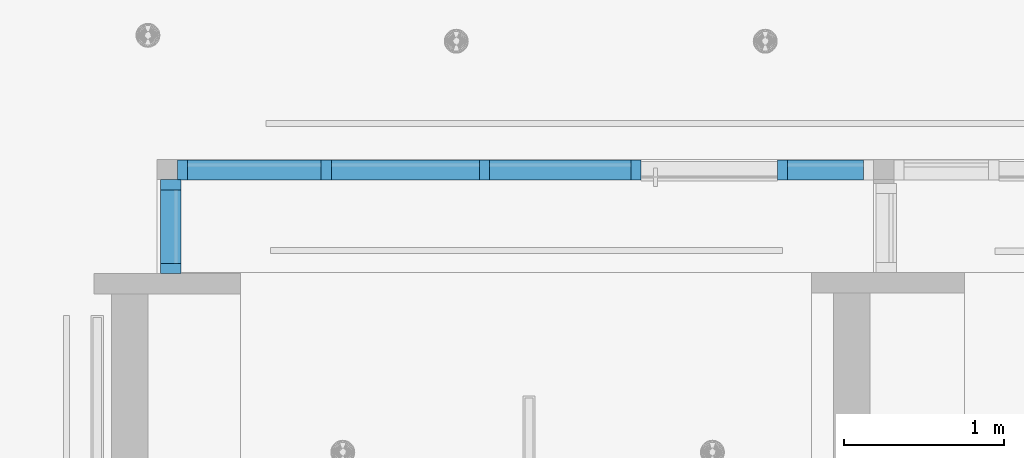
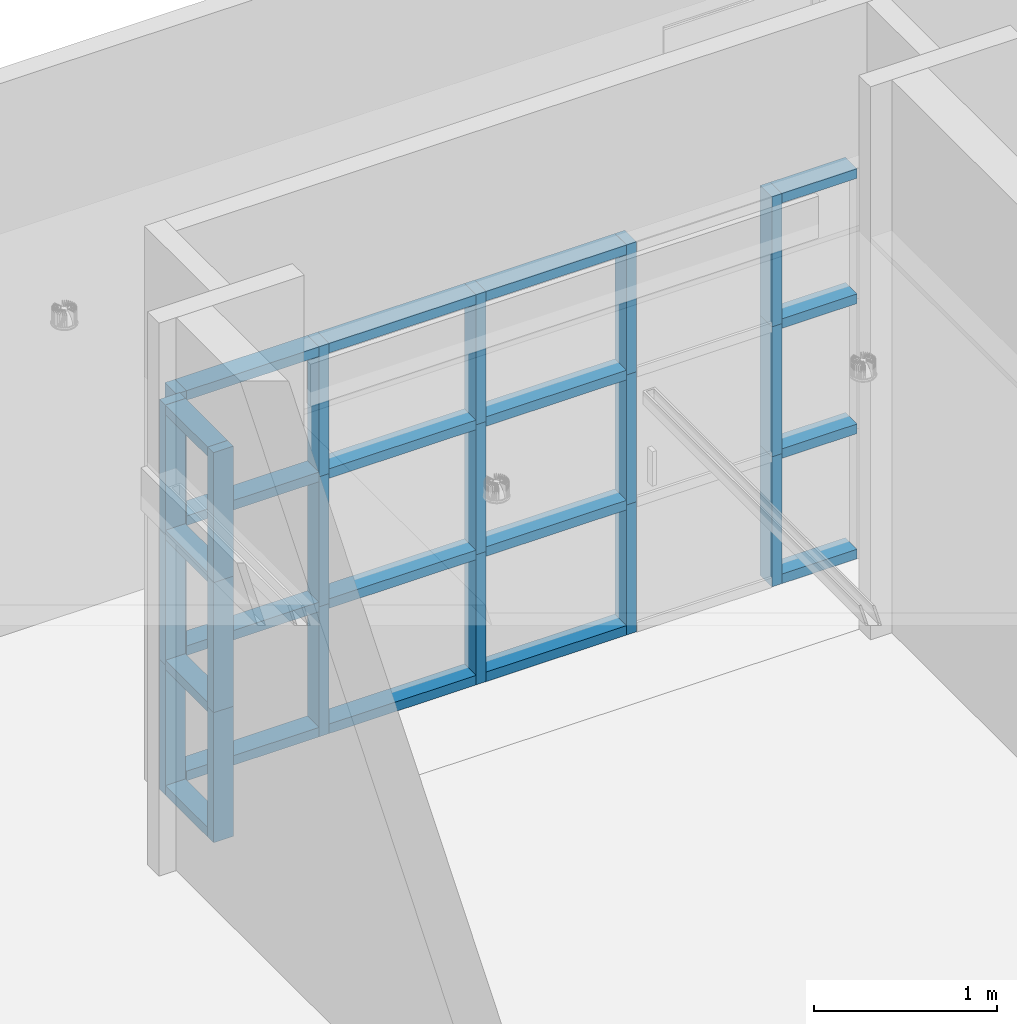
# One storey, part 7 of 108: 40 members, 2 elements without a shape of their own.
"""IFC4 building model written with IfcOpenShell, lengths in feet."""

from ifc_helpers import new_model, entity, si_unit, converted_unit, derived_unit, direction, frame, origin, origin_2d_with_axis, place, context, subcontext, project, spatial, rectangle, extrude, source, transform, mapped, material, material_profile, profile_set, profile_usage, type_object, type_shapes, element, aggregate, save


model = new_model("IFC4")

# Units and contexts
model_context = context("Model", 3, precision=0.0001, world=origin(), true_north=direction((6.12303176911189e-17, 1.0)))
body_context = subcontext(model_context, "Body", "Model", "MODEL_VIEW")
ifc_project = project(units=[converted_unit("LENGTHUNIT", "FOOT", entity("IfcRatioMeasure", 0.3048), si_unit("LENGTHUNIT", "METRE"), dimensions=[1, 0, 0, 0, 0, 0, 0]), converted_unit("AREAUNIT", "SQUARE FOOT", entity("IfcRatioMeasure", 0.09290304), si_unit("AREAUNIT", "SQUARE_METRE"), dimensions=[2, 0, 0, 0, 0, 0, 0]), converted_unit("VOLUMEUNIT", "CUBIC FOOT", entity("IfcRatioMeasure", 0.028316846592), si_unit("VOLUMEUNIT", "CUBIC_METRE"), dimensions=[3, 0, 0, 0, 0, 0, 0]), converted_unit("PLANEANGLEUNIT", "DEGREE", entity("IfcRatioMeasure", 0.0174532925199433), si_unit("PLANEANGLEUNIT", "RADIAN"), dimensions=[0, 0, 0, 0, 0, 0, 0]), si_unit("MASSUNIT", "GRAM", prefix="KILO"), derived_unit("MASSDENSITYUNIT", [(si_unit("MASSUNIT", "GRAM", prefix="KILO"), 1), (si_unit("LENGTHUNIT", "METRE"), -3)]), si_unit("TIMEUNIT", "SECOND"), si_unit("FREQUENCYUNIT", "HERTZ"), si_unit("THERMODYNAMICTEMPERATUREUNIT", "DEGREE_CELSIUS"), derived_unit("THERMALTRANSMITTANCEUNIT", [(si_unit("MASSUNIT", "GRAM", prefix="KILO"), 1), (si_unit("THERMODYNAMICTEMPERATUREUNIT", "KELVIN"), -1), (si_unit("TIMEUNIT", "SECOND"), -3)]), derived_unit("VOLUMETRICFLOWRATEUNIT", [(si_unit("LENGTHUNIT", "METRE"), 3), (si_unit("TIMEUNIT", "SECOND"), -1)]), si_unit("ELECTRICCURRENTUNIT", "AMPERE"), si_unit("ELECTRICVOLTAGEUNIT", "VOLT"), si_unit("POWERUNIT", "WATT"), si_unit("FORCEUNIT", "NEWTON"), si_unit("ILLUMINANCEUNIT", "LUX"), si_unit("LUMINOUSFLUXUNIT", "LUMEN"), si_unit("LUMINOUSINTENSITYUNIT", "CANDELA"), derived_unit("USERDEFINED", [(si_unit("MASSUNIT", "GRAM", prefix="KILO"), -1), (si_unit("LENGTHUNIT", "METRE"), -2), (si_unit("TIMEUNIT", "SECOND"), 3), (si_unit("LUMINOUSFLUXUNIT", "LUMEN"), 1)]), derived_unit("LINEARVELOCITYUNIT", [(si_unit("LENGTHUNIT", "METRE"), 1), (si_unit("TIMEUNIT", "SECOND"), -1)]), si_unit("PRESSUREUNIT", "PASCAL"), derived_unit("USERDEFINED", [(si_unit("LENGTHUNIT", "METRE"), -2), (si_unit("MASSUNIT", "GRAM", prefix="KILO"), 1), (si_unit("TIMEUNIT", "SECOND"), -2)])], contexts=[model_context])

# Site, building, storey
site_placement = place(None, origin())
site = spatial("IfcSite", under=ifc_project, at=site_placement, Name="Default", CompositionType="ELEMENT")
building_placement = place(site_placement, origin())
building = spatial("IfcBuilding", under=site, at=building_placement, CompositionType="ELEMENT")
storey_placement = place(building_placement, frame((0.0, 0.0, 168.0)))
storey = spatial("IfcBuildingStorey", under=building, at=storey_placement, Name="Level 15", CompositionType="ELEMENT", Elevation=168.0)

# Curtain wall, members
curtain_wall_type = type_object("IfcCurtainWallType", Name="Curtain Wall:Storefront 02", PredefinedType="NOTDEFINED")
curtain_wall_1_placement = place(storey_placement, frame((0.0, 0.0, -168.0)))
curtain_wall_1 = element("IfcCurtainWall", 1, at=curtain_wall_1_placement, inside=storey, type_object=curtain_wall_type, Name="Curtain Wall:Storefront 02", ObjectType="Curtain Wall:Storefront 02", PredefinedType="NOTDEFINED")
ifc_material = material(Name="Aluminum", Category="Metal")
ifc_material_profile = material_profile(ifc_material, rectangle(XDim=0.416666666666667, YDim=0.208333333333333, at=origin_2d_with_axis()), Name="2.5\" x 5\" rectangular")
ifc_profile_set = profile_set([ifc_material_profile], Name="2.5\" x 5\" rectangular")
ifc_profile_usage_1 = profile_usage(ifc_profile_set)
member_type_1 = type_object("IfcMemberType", Name="2.5\" x 5\" rectangular", PredefinedType="MEMBER", material=ifc_profile_set)
shared_shape_1 = source(origin(), body_context, "Body", "SweptSolid", [
    extrude(rectangle(XDim=0.416666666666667, YDim=0.208333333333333, at=origin_2d_with_axis()), frame((-0.104166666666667, 0.0, -2.84094160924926), z_axis=(0.0, 0.0, 1.0), x_axis=(0.0, -1.0, 0.0)), (0.0, 0.0, 1.0), 2.84094160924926),
])
type_shapes(member_type_1, [shared_shape_1])
member_1_placement = place(storey_placement, frame((-1.4531314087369, 9.76514449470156, 0.0), z_axis=(0.0, 0.0, -1.0), x_axis=(0.0, 1.0, 0.0)))
member_1 = element("IfcMember", 2, at=member_1_placement, type_object=member_type_1, material=ifc_profile_usage_1, Name="Rectangular Mullion:2.5\" x 5\" rectangular", ObjectType="Rectangular Mullion:2.5\" x 5\" rectangular", PredefinedType="MULLION", context=body_context, shape_type="MappedRepresentation", body=[
    mapped(shared_shape_1, transform((0.0, 0.0, 0.0), scale=1.0)),
])
ifc_profile_usage_2 = profile_usage(ifc_profile_set)
member_type_2 = type_object("IfcMemberType", Name="2.5\" x 5\" rectangular", PredefinedType="MEMBER", material=ifc_profile_set)
shared_shape_2 = source(origin(), body_context, "Body", "SweptSolid", [
    extrude(rectangle(XDim=0.416666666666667, YDim=0.208333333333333, at=origin_2d_with_axis()), frame((-0.104166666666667, 0.0, -2.84094160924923), z_axis=(0.0, 0.0, 1.0), x_axis=(0.0, -1.0, 0.0)), (0.0, 0.0, 1.0), 2.84094160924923),
])
type_shapes(member_type_2, [shared_shape_2])
member_2_placement = place(storey_placement, frame((-1.45313140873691, 7.83564959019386, 8.52282482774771), z_axis=(0.0, 0.0, 1.0), x_axis=(0.0, -1.0, 0.0)))
member_2 = element("IfcMember", 3, at=member_2_placement, type_object=member_type_2, material=ifc_profile_usage_2, Name="Rectangular Mullion:2.5\" x 5\" rectangular", ObjectType="Rectangular Mullion:2.5\" x 5\" rectangular", PredefinedType="MULLION", context=body_context, shape_type="MappedRepresentation", body=[
    mapped(shared_shape_2, transform((0.0, 0.0, 0.0), scale=1.0)),
])

# Curtain wall, member
curtain_wall_2_placement = place(storey_placement, frame((0.0, 0.0, -168.0)))
curtain_wall_2 = element("IfcCurtainWall", 4, at=curtain_wall_2_placement, inside=storey, type_object=curtain_wall_type, Name="Curtain Wall:Storefront 02", ObjectType="Curtain Wall:Storefront 02", PredefinedType="NOTDEFINED")
ifc_profile_usage_3 = profile_usage(ifc_profile_set)
member_type_3 = type_object("IfcMemberType", Name="2.5\" x 5\" rectangular", PredefinedType="MEMBER", material=ifc_profile_set)
shared_shape_3 = source(origin(), body_context, "Body", "SweptSolid", [
    extrude(rectangle(XDim=0.416666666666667, YDim=0.208333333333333, at=origin_2d_with_axis()), frame((-0.104166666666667, 0.0, -2.84094160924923), z_axis=(0.0, 0.0, 1.0), x_axis=(0.0, -1.0, 0.0)), (0.0, 0.0, 1.0), 2.84094160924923),
])
type_shapes(member_type_3, [shared_shape_3])
member_3_placement = place(storey_placement, frame((-1.31924407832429, 9.96064959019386, 5.68188321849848), z_axis=(0.0, 0.0, -1.0), x_axis=(-1.0, 0.0, 0.0)))
member_3 = element("IfcMember", 5, at=member_3_placement, type_object=member_type_3, material=ifc_profile_usage_3, Name="Rectangular Mullion:2.5\" x 5\" rectangular", ObjectType="Rectangular Mullion:2.5\" x 5\" rectangular", PredefinedType="MULLION", context=body_context, shape_type="MappedRepresentation", body=[
    mapped(shared_shape_3, transform((0.0, 0.0, 0.0), scale=1.0)),
])

# Member
ifc_profile_usage_4 = profile_usage(ifc_profile_set)
member_4_placement = place(storey_placement, frame((-1.4531314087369, 9.76514449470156, 5.68188321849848), z_axis=(0.0, 0.0, -1.0), x_axis=(0.0, 1.0, 0.0)))
member_4 = element("IfcMember", 6, at=member_4_placement, type_object=member_type_3, material=ifc_profile_usage_4, Name="Rectangular Mullion:2.5\" x 5\" rectangular", ObjectType="Rectangular Mullion:2.5\" x 5\" rectangular", PredefinedType="MULLION", context=body_context, shape_type="MappedRepresentation", body=[
    mapped(shared_shape_3, transform((0.0, 0.0, 0.0), scale=1.0)),
])

ifc_profile_usage_5 = profile_usage(ifc_profile_set)
member_type_4 = type_object("IfcMemberType", Name="2.5\" x 5\" rectangular", PredefinedType="MEMBER", material=ifc_profile_set)
shared_shape_4 = source(origin(), body_context, "Body", "SweptSolid", [
    extrude(rectangle(XDim=0.416666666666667, YDim=0.208333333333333, at=origin_2d_with_axis()), frame((-0.104166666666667, 0.0, -2.84094160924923), z_axis=(0.0, 0.0, 1.0), x_axis=(0.0, -1.0, 0.0)), (0.0, 0.0, 1.0), 2.84094160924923),
])
type_shapes(member_type_4, [shared_shape_4])
member_5_placement = place(storey_placement, frame((-1.45313140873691, 7.83564959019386, 5.68188321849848), z_axis=(0.0, 0.0, 1.0), x_axis=(0.0, -1.0, 0.0)))
member_5 = element("IfcMember", 7, at=member_5_placement, type_object=member_type_4, material=ifc_profile_usage_5, Name="Rectangular Mullion:2.5\" x 5\" rectangular", ObjectType="Rectangular Mullion:2.5\" x 5\" rectangular", PredefinedType="MULLION", context=body_context, shape_type="MappedRepresentation", body=[
    mapped(shared_shape_4, transform((0.0, 0.0, 0.0), scale=1.0)),
])

ifc_profile_usage_6 = profile_usage(ifc_profile_set)
member_type_5 = type_object("IfcMemberType", Name="2.5\" x 5\" rectangular", PredefinedType="MEMBER", material=ifc_profile_set)
shared_shape_5 = source(origin(), body_context, "Body", "SweptSolid", [
    extrude(rectangle(XDim=0.416666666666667, YDim=0.208333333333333, at=origin_2d_with_axis()), frame((-0.104166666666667, 0.0, -2.84094160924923), z_axis=(0.0, 0.0, 1.0), x_axis=(0.0, -1.0, 0.0)), (0.0, 0.0, 1.0), 2.84094160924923),
])
type_shapes(member_type_5, [shared_shape_5])
member_6_placement = place(storey_placement, frame((-1.31924407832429, 9.96064959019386, 2.84094160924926), z_axis=(0.0, 0.0, -1.0), x_axis=(-1.0, 0.0, 0.0)))
member_6 = element("IfcMember", 8, at=member_6_placement, type_object=member_type_5, material=ifc_profile_usage_6, Name="Rectangular Mullion:2.5\" x 5\" rectangular", ObjectType="Rectangular Mullion:2.5\" x 5\" rectangular", PredefinedType="MULLION", context=body_context, shape_type="MappedRepresentation", body=[
    mapped(shared_shape_5, transform((0.0, 0.0, 0.0), scale=1.0)),
])

ifc_profile_usage_7 = profile_usage(ifc_profile_set)
member_7_placement = place(storey_placement, frame((-1.4531314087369, 9.76514449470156, 2.84094160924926), z_axis=(0.0, 0.0, -1.0), x_axis=(0.0, 1.0, 0.0)))
member_7 = element("IfcMember", 9, at=member_7_placement, type_object=member_type_5, material=ifc_profile_usage_7, Name="Rectangular Mullion:2.5\" x 5\" rectangular", ObjectType="Rectangular Mullion:2.5\" x 5\" rectangular", PredefinedType="MULLION", context=body_context, shape_type="MappedRepresentation", body=[
    mapped(shared_shape_5, transform((0.0, 0.0, 0.0), scale=1.0)),
])

ifc_profile_usage_8 = profile_usage(ifc_profile_set)
member_type_6 = type_object("IfcMemberType", Name="2.5\" x 5\" rectangular", PredefinedType="MEMBER", material=ifc_profile_set)
shared_shape_6 = source(origin(), body_context, "Body", "SweptSolid", [
    extrude(rectangle(XDim=0.416666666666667, YDim=0.208333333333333, at=origin_2d_with_axis()), frame((-0.104166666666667, 0.0, -2.84094160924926), z_axis=(0.0, 0.0, 1.0), x_axis=(0.0, -1.0, 0.0)), (0.0, 0.0, 1.0), 2.84094160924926),
])
type_shapes(member_type_6, [shared_shape_6])
member_8_placement = place(storey_placement, frame((-1.45313140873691, 7.83564959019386, 2.84094160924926), z_axis=(0.0, 0.0, 1.0), x_axis=(0.0, -1.0, 0.0)))
member_8 = element("IfcMember", 10, at=member_8_placement, type_object=member_type_6, material=ifc_profile_usage_8, Name="Rectangular Mullion:2.5\" x 5\" rectangular", ObjectType="Rectangular Mullion:2.5\" x 5\" rectangular", PredefinedType="MULLION", context=body_context, shape_type="MappedRepresentation", body=[
    mapped(shared_shape_6, transform((0.0, 0.0, 0.0), scale=1.0)),
])

ifc_profile_usage_9 = profile_usage(ifc_profile_set)
member_type_7 = type_object("IfcMemberType", Name="2.5\" x 5\" rectangular", PredefinedType="MEMBER", material=ifc_profile_set)
shared_shape_7 = source(origin(), body_context, "Body", "SweptSolid", [
    extrude(rectangle(XDim=0.416666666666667, YDim=0.208333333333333, at=origin_2d_with_axis()), frame((0.0, 0.0, -2.84094160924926), z_axis=(0.0, 0.0, 1.0), x_axis=(0.0, -1.0, 0.0)), (0.0, 0.0, 1.0), 2.84094160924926),
])
type_shapes(member_type_7, [shared_shape_7])
member_9_placement = place(storey_placement, frame((8.08870395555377, 9.96064959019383, 0.0), z_axis=(0.0, 0.0, -1.0), x_axis=(-1.0, 0.0, 0.0)))
member_9 = element("IfcMember", 11, at=member_9_placement, type_object=member_type_7, material=ifc_profile_usage_9, Name="Rectangular Mullion:2.5\" x 5\" rectangular", ObjectType="Rectangular Mullion:2.5\" x 5\" rectangular", PredefinedType="MULLION", context=body_context, shape_type="MappedRepresentation", body=[
    mapped(shared_shape_7, transform((0.0, 0.0, 0.0), scale=1.0)),
])

ifc_profile_usage_10 = profile_usage(ifc_profile_set)
member_10_placement = place(storey_placement, frame((11.0887039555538, 9.96064959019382, 0.0), z_axis=(0.0, 0.0, -1.0), x_axis=(-1.0, 0.0, 0.0)))
member_10 = element("IfcMember", 12, at=member_10_placement, type_object=member_type_7, material=ifc_profile_usage_10, Name="Rectangular Mullion:2.5\" x 5\" rectangular", ObjectType="Rectangular Mullion:2.5\" x 5\" rectangular", PredefinedType="MULLION", context=body_context, shape_type="MappedRepresentation", body=[
    mapped(shared_shape_7, transform((0.0, 0.0, 0.0), scale=1.0)),
])

ifc_profile_usage_11 = profile_usage(ifc_profile_set)
member_11_placement = place(storey_placement, frame((4.97753661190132, 9.96064959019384, 0.0), z_axis=(0.0, 0.0, -1.0), x_axis=(-1.0, 0.0, 0.0)))
member_11 = element("IfcMember", 13, at=member_11_placement, type_object=member_type_7, material=ifc_profile_usage_11, Name="Rectangular Mullion:2.5\" x 5\" rectangular", ObjectType="Rectangular Mullion:2.5\" x 5\" rectangular", PredefinedType="MULLION", context=body_context, shape_type="MappedRepresentation", body=[
    mapped(shared_shape_7, transform((0.0, 0.0, 0.0), scale=1.0)),
])

ifc_profile_usage_12 = profile_usage(ifc_profile_set)
member_12_placement = place(storey_placement, frame((1.7343685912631, 9.96064959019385, 0.0), z_axis=(0.0, 0.0, -1.0), x_axis=(-1.0, 0.0, 0.0)))
member_12 = element("IfcMember", 14, at=member_12_placement, type_object=member_type_7, material=ifc_profile_usage_12, Name="Rectangular Mullion:2.5\" x 5\" rectangular", ObjectType="Rectangular Mullion:2.5\" x 5\" rectangular", PredefinedType="MULLION", context=body_context, shape_type="MappedRepresentation", body=[
    mapped(shared_shape_7, transform((0.0, 0.0, 0.0), scale=1.0)),
])

ifc_profile_usage_13 = profile_usage(ifc_profile_set)
member_type_8 = type_object("IfcMemberType", Name="2.5\" x 5\" rectangular", PredefinedType="MEMBER", material=ifc_profile_set)
shared_shape_8 = source(origin(), body_context, "Body", "SweptSolid", [
    extrude(rectangle(XDim=0.416666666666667, YDim=0.208333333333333, at=origin_2d_with_axis()), frame((0.0, 0.0, -2.84094160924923), z_axis=(0.0, 0.0, 1.0), x_axis=(0.0, -1.0, 0.0)), (0.0, 0.0, 1.0), 2.84094160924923),
])
type_shapes(member_type_8, [shared_shape_8])
member_13_placement = place(storey_placement, frame((11.0887039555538, 9.96064959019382, 5.68188321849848), z_axis=(0.0, 0.0, -1.0), x_axis=(-1.0, 0.0, 0.0)))
member_13 = element("IfcMember", 15, at=member_13_placement, type_object=member_type_8, material=ifc_profile_usage_13, Name="Rectangular Mullion:2.5\" x 5\" rectangular", ObjectType="Rectangular Mullion:2.5\" x 5\" rectangular", PredefinedType="MULLION", context=body_context, shape_type="MappedRepresentation", body=[
    mapped(shared_shape_8, transform((0.0, 0.0, 0.0), scale=1.0)),
])

ifc_profile_usage_14 = profile_usage(ifc_profile_set)
member_14_placement = place(storey_placement, frame((8.08870395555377, 9.96064959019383, 5.68188321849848), z_axis=(0.0, 0.0, -1.0), x_axis=(-1.0, 0.0, 0.0)))
member_14 = element("IfcMember", 16, at=member_14_placement, type_object=member_type_8, material=ifc_profile_usage_14, Name="Rectangular Mullion:2.5\" x 5\" rectangular", ObjectType="Rectangular Mullion:2.5\" x 5\" rectangular", PredefinedType="MULLION", context=body_context, shape_type="MappedRepresentation", body=[
    mapped(shared_shape_8, transform((0.0, 0.0, 0.0), scale=1.0)),
])

ifc_profile_usage_15 = profile_usage(ifc_profile_set)
member_15_placement = place(storey_placement, frame((4.97753661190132, 9.96064959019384, 5.68188321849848), z_axis=(0.0, 0.0, -1.0), x_axis=(-1.0, 0.0, 0.0)))
member_15 = element("IfcMember", 17, at=member_15_placement, type_object=member_type_8, material=ifc_profile_usage_15, Name="Rectangular Mullion:2.5\" x 5\" rectangular", ObjectType="Rectangular Mullion:2.5\" x 5\" rectangular", PredefinedType="MULLION", context=body_context, shape_type="MappedRepresentation", body=[
    mapped(shared_shape_8, transform((0.0, 0.0, 0.0), scale=1.0)),
])

ifc_profile_usage_16 = profile_usage(ifc_profile_set)
member_16_placement = place(storey_placement, frame((1.7343685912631, 9.96064959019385, 5.68188321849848), z_axis=(0.0, 0.0, -1.0), x_axis=(-1.0, 0.0, 0.0)))
member_16 = element("IfcMember", 18, at=member_16_placement, type_object=member_type_8, material=ifc_profile_usage_16, Name="Rectangular Mullion:2.5\" x 5\" rectangular", ObjectType="Rectangular Mullion:2.5\" x 5\" rectangular", PredefinedType="MULLION", context=body_context, shape_type="MappedRepresentation", body=[
    mapped(shared_shape_8, transform((0.0, 0.0, 0.0), scale=1.0)),
])

ifc_profile_usage_17 = profile_usage(ifc_profile_set)
member_type_9 = type_object("IfcMemberType", Name="2.5\" x 5\" rectangular", PredefinedType="MEMBER", material=ifc_profile_set)
shared_shape_9 = source(origin(), body_context, "Body", "SweptSolid", [
    extrude(rectangle(XDim=0.416666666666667, YDim=0.208333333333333, at=origin_2d_with_axis()), frame((0.0, 0.0, -2.84094160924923), z_axis=(0.0, 0.0, 1.0), x_axis=(0.0, -1.0, 0.0)), (0.0, 0.0, 1.0), 2.84094160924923),
])
type_shapes(member_type_9, [shared_shape_9])
member_17_placement = place(storey_placement, frame((11.0887039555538, 9.96064959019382, 2.84094160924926), z_axis=(0.0, 0.0, -1.0), x_axis=(-1.0, 0.0, 0.0)))
member_17 = element("IfcMember", 19, at=member_17_placement, type_object=member_type_9, material=ifc_profile_usage_17, Name="Rectangular Mullion:2.5\" x 5\" rectangular", ObjectType="Rectangular Mullion:2.5\" x 5\" rectangular", PredefinedType="MULLION", context=body_context, shape_type="MappedRepresentation", body=[
    mapped(shared_shape_9, transform((0.0, 0.0, 0.0), scale=1.0)),
])

ifc_profile_usage_18 = profile_usage(ifc_profile_set)
member_18_placement = place(storey_placement, frame((8.08870395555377, 9.96064959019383, 2.84094160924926), z_axis=(0.0, 0.0, -1.0), x_axis=(-1.0, 0.0, 0.0)))
member_18 = element("IfcMember", 20, at=member_18_placement, type_object=member_type_9, material=ifc_profile_usage_18, Name="Rectangular Mullion:2.5\" x 5\" rectangular", ObjectType="Rectangular Mullion:2.5\" x 5\" rectangular", PredefinedType="MULLION", context=body_context, shape_type="MappedRepresentation", body=[
    mapped(shared_shape_9, transform((0.0, 0.0, 0.0), scale=1.0)),
])

ifc_profile_usage_19 = profile_usage(ifc_profile_set)
member_19_placement = place(storey_placement, frame((4.97753661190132, 9.96064959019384, 2.84094160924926), z_axis=(0.0, 0.0, -1.0), x_axis=(-1.0, 0.0, 0.0)))
member_19 = element("IfcMember", 21, at=member_19_placement, type_object=member_type_9, material=ifc_profile_usage_19, Name="Rectangular Mullion:2.5\" x 5\" rectangular", ObjectType="Rectangular Mullion:2.5\" x 5\" rectangular", PredefinedType="MULLION", context=body_context, shape_type="MappedRepresentation", body=[
    mapped(shared_shape_9, transform((0.0, 0.0, 0.0), scale=1.0)),
])

ifc_profile_usage_20 = profile_usage(ifc_profile_set)
member_20_placement = place(storey_placement, frame((1.7343685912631, 9.96064959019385, 2.84094160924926), z_axis=(0.0, 0.0, -1.0), x_axis=(-1.0, 0.0, 0.0)))
member_20 = element("IfcMember", 22, at=member_20_placement, type_object=member_type_9, material=ifc_profile_usage_20, Name="Rectangular Mullion:2.5\" x 5\" rectangular", ObjectType="Rectangular Mullion:2.5\" x 5\" rectangular", PredefinedType="MULLION", context=body_context, shape_type="MappedRepresentation", body=[
    mapped(shared_shape_9, transform((0.0, 0.0, 0.0), scale=1.0)),
])

ifc_profile_usage_21 = profile_usage(ifc_profile_set)
member_type_10 = type_object("IfcMemberType", Name="2.5\" x 5\" rectangular", PredefinedType="MEMBER", material=ifc_profile_set)
shared_shape_10 = source(origin(), body_context, "Body", "SweptSolid", [
    extrude(rectangle(XDim=0.416666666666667, YDim=0.208333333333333, at=origin_2d_with_axis()), frame((-0.104166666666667, 0.0, -2.74111266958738), z_axis=(0.0, 0.0, 1.0), x_axis=(0.0, -1.0, 0.0)), (0.0, 0.0, 1.0), 2.74111266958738),
])
type_shapes(member_type_10, [shared_shape_10])
member_21_placement = place(storey_placement, frame((-1.11091074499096, 9.96064959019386, 8.52282482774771), z_axis=(-1.0, 0.0, 0.0), x_axis=(0.0, 0.0, 1.0)))
member_21 = element("IfcMember", 23, at=member_21_placement, type_object=member_type_10, material=ifc_profile_usage_21, Name="Rectangular Mullion:2.5\" x 5\" rectangular", ObjectType="Rectangular Mullion:2.5\" x 5\" rectangular", PredefinedType="MULLION", context=body_context, shape_type="MappedRepresentation", body=[
    mapped(shared_shape_10, transform((0.0, 0.0, 0.0), scale=1.0)),
])

ifc_profile_usage_22 = profile_usage(ifc_profile_set)
member_type_11 = type_object("IfcMemberType", Name="2.5\" x 5\" rectangular", PredefinedType="MEMBER", material=ifc_profile_set)
shared_shape_11 = source(origin(), body_context, "Body", "SweptSolid", [
    extrude(rectangle(XDim=0.416666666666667, YDim=0.208333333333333, at=origin_2d_with_axis()), frame((-0.104166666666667, 0.0, -1.5562319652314), z_axis=(0.0, 0.0, 1.0), x_axis=(0.0, -1.0, 0.0)), (0.0, 0.0, 1.0), 1.5562319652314),
])
type_shapes(member_type_11, [shared_shape_11])
member_22_placement = place(storey_placement, frame((12.7491025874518, 9.96064959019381, 0.0), z_axis=(1.0, 0.0, 0.0), x_axis=(0.0, 0.0, -1.0)))
member_22 = element("IfcMember", 24, at=member_22_placement, type_object=member_type_11, material=ifc_profile_usage_22, Name="Rectangular Mullion:2.5\" x 5\" rectangular", ObjectType="Rectangular Mullion:2.5\" x 5\" rectangular", PredefinedType="MULLION", context=body_context, shape_type="MappedRepresentation", body=[
    mapped(shared_shape_11, transform((0.0, 0.0, 0.0), scale=1.0)),
])

ifc_profile_usage_23 = profile_usage(ifc_profile_set)
member_type_12 = type_object("IfcMemberType", Name="2.5\" x 5\" rectangular", PredefinedType="MEMBER", material=ifc_profile_set)
shared_shape_12 = source(origin(), body_context, "Body", "SweptSolid", [
    extrude(rectangle(XDim=0.416666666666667, YDim=0.208333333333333, at=origin_2d_with_axis()), frame((-0.104166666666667, 0.0, -2.90283401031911), z_axis=(0.0, 0.0, 1.0), x_axis=(0.0, -1.0, 0.0)), (0.0, 0.0, 1.0), 2.90283401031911),
])
type_shapes(member_type_12, [shared_shape_12])
member_23_placement = place(storey_placement, frame((7.9845372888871, 9.96064959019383, 0.0), z_axis=(1.0, 0.0, 0.0), x_axis=(0.0, 0.0, -1.0)))
member_23 = element("IfcMember", 25, at=member_23_placement, type_object=member_type_12, material=ifc_profile_usage_23, Name="Rectangular Mullion:2.5\" x 5\" rectangular", ObjectType="Rectangular Mullion:2.5\" x 5\" rectangular", PredefinedType="MULLION", context=body_context, shape_type="MappedRepresentation", body=[
    mapped(shared_shape_12, transform((0.0, 0.0, 0.0), scale=1.0)),
])

ifc_profile_usage_24 = profile_usage(ifc_profile_set)
member_type_13 = type_object("IfcMemberType", Name="2.5\" x 5\" rectangular", PredefinedType="MEMBER", material=ifc_profile_set)
shared_shape_13 = source(origin(), body_context, "Body", "SweptSolid", [
    extrude(rectangle(XDim=0.416666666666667, YDim=0.208333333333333, at=origin_2d_with_axis()), frame((-0.104166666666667, 0.0, -1.5562319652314), z_axis=(0.0, 0.0, 1.0), x_axis=(0.0, -1.0, 0.0)), (0.0, 0.0, 1.0), 1.5562319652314),
])
type_shapes(member_type_13, [shared_shape_13])
member_24_placement = place(storey_placement, frame((11.1928706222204, 9.96064959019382, 8.52282482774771), z_axis=(-1.0, 0.0, 0.0), x_axis=(0.0, 0.0, 1.0)))
member_24 = element("IfcMember", 26, at=member_24_placement, type_object=member_type_13, material=ifc_profile_usage_24, Name="Rectangular Mullion:2.5\" x 5\" rectangular", ObjectType="Rectangular Mullion:2.5\" x 5\" rectangular", PredefinedType="MULLION", context=body_context, shape_type="MappedRepresentation", body=[
    mapped(shared_shape_13, transform((0.0, 0.0, 0.0), scale=1.0)),
])

ifc_profile_usage_25 = profile_usage(ifc_profile_set)
member_type_14 = type_object("IfcMemberType", Name="2.5\" x 5\" rectangular", PredefinedType="MEMBER", material=ifc_profile_set)
shared_shape_14 = source(origin(), body_context, "Body", "SweptSolid", [
    extrude(rectangle(XDim=0.416666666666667, YDim=0.208333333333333, at=origin_2d_with_axis()), frame((0.0, 0.0, -1.5562319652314), z_axis=(0.0, 0.0, 1.0), x_axis=(0.0, -1.0, 0.0)), (0.0, 0.0, 1.0), 1.5562319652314),
])
type_shapes(member_type_14, [shared_shape_14])
member_25_placement = place(storey_placement, frame((11.1928706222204, 9.96064959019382, 5.68188321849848), z_axis=(-1.0, 0.0, 0.0), x_axis=(0.0, 0.0, 1.0)))
member_25 = element("IfcMember", 27, at=member_25_placement, type_object=member_type_14, material=ifc_profile_usage_25, Name="Rectangular Mullion:2.5\" x 5\" rectangular", ObjectType="Rectangular Mullion:2.5\" x 5\" rectangular", PredefinedType="MULLION", context=body_context, shape_type="MappedRepresentation", body=[
    mapped(shared_shape_14, transform((0.0, 0.0, 0.0), scale=1.0)),
])

ifc_profile_usage_26 = profile_usage(ifc_profile_set)
member_26_placement = place(storey_placement, frame((11.1928706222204, 9.96064959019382, 2.84094160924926), z_axis=(-1.0, 0.0, 0.0), x_axis=(0.0, 0.0, 1.0)))
member_26 = element("IfcMember", 28, at=member_26_placement, type_object=member_type_14, material=ifc_profile_usage_26, Name="Rectangular Mullion:2.5\" x 5\" rectangular", ObjectType="Rectangular Mullion:2.5\" x 5\" rectangular", PredefinedType="MULLION", context=body_context, shape_type="MappedRepresentation", body=[
    mapped(shared_shape_14, transform((0.0, 0.0, 0.0), scale=1.0)),
])

ifc_profile_usage_27 = profile_usage(ifc_profile_set)
member_type_15 = type_object("IfcMemberType", Name="2.5\" x 5\" rectangular", PredefinedType="MEMBER", material=ifc_profile_set)
shared_shape_15 = source(origin(), body_context, "Body", "SweptSolid", [
    extrude(rectangle(XDim=0.416666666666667, YDim=0.208333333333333, at=origin_2d_with_axis()), frame((0.0, 0.0, -2.90283401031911), z_axis=(0.0, 0.0, 1.0), x_axis=(0.0, -1.0, 0.0)), (0.0, 0.0, 1.0), 2.90283401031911),
])
type_shapes(member_type_15, [shared_shape_15])
member_27_placement = place(storey_placement, frame((5.08170327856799, 9.96064959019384, 5.68188321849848), z_axis=(-1.0, 0.0, 0.0), x_axis=(0.0, 0.0, 1.0)))
member_27 = element("IfcMember", 29, at=member_27_placement, type_object=member_type_15, material=ifc_profile_usage_27, Name="Rectangular Mullion:2.5\" x 5\" rectangular", ObjectType="Rectangular Mullion:2.5\" x 5\" rectangular", PredefinedType="MULLION", context=body_context, shape_type="MappedRepresentation", body=[
    mapped(shared_shape_15, transform((0.0, 0.0, 0.0), scale=1.0)),
])

ifc_profile_usage_28 = profile_usage(ifc_profile_set)
member_28_placement = place(storey_placement, frame((5.08170327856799, 9.96064959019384, 2.84094160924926), z_axis=(-1.0, 0.0, 0.0), x_axis=(0.0, 0.0, 1.0)))
member_28 = element("IfcMember", 30, at=member_28_placement, type_object=member_type_15, material=ifc_profile_usage_28, Name="Rectangular Mullion:2.5\" x 5\" rectangular", ObjectType="Rectangular Mullion:2.5\" x 5\" rectangular", PredefinedType="MULLION", context=body_context, shape_type="MappedRepresentation", body=[
    mapped(shared_shape_15, transform((0.0, 0.0, 0.0), scale=1.0)),
])

ifc_profile_usage_29 = profile_usage(ifc_profile_set)
member_type_16 = type_object("IfcMemberType", Name="2.5\" x 5\" rectangular", PredefinedType="MEMBER", material=ifc_profile_set)
shared_shape_16 = source(origin(), body_context, "Body", "SweptSolid", [
    extrude(rectangle(XDim=0.416666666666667, YDim=0.208333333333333, at=origin_2d_with_axis()), frame((-0.104166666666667, 0.0, -2.90283401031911), z_axis=(0.0, 0.0, 1.0), x_axis=(0.0, -1.0, 0.0)), (0.0, 0.0, 1.0), 2.90283401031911),
])
type_shapes(member_type_16, [shared_shape_16])
member_29_placement = place(storey_placement, frame((5.08170327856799, 9.96064959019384, 8.52282482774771), z_axis=(-1.0, 0.0, 0.0), x_axis=(0.0, 0.0, 1.0)))
member_29 = element("IfcMember", 31, at=member_29_placement, type_object=member_type_16, material=ifc_profile_usage_29, Name="Rectangular Mullion:2.5\" x 5\" rectangular", ObjectType="Rectangular Mullion:2.5\" x 5\" rectangular", PredefinedType="MULLION", context=body_context, shape_type="MappedRepresentation", body=[
    mapped(shared_shape_16, transform((0.0, 0.0, 0.0), scale=1.0)),
])

ifc_profile_usage_30 = profile_usage(ifc_profile_set)
member_type_17 = type_object("IfcMemberType", Name="2.5\" x 5\" rectangular", PredefinedType="MEMBER", material=ifc_profile_set)
shared_shape_17 = source(origin(), body_context, "Body", "SweptSolid", [
    extrude(rectangle(XDim=0.416666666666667, YDim=0.208333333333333, at=origin_2d_with_axis()), frame((-0.104166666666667, 0.0, -3.03483468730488), z_axis=(0.0, 0.0, 1.0), x_axis=(0.0, -1.0, 0.0)), (0.0, 0.0, 1.0), 3.03483468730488),
])
type_shapes(member_type_17, [shared_shape_17])
member_30_placement = place(storey_placement, frame((4.87336994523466, 9.96064959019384, 0.0), z_axis=(1.0, 0.0, 0.0), x_axis=(0.0, 0.0, -1.0)))
member_30 = element("IfcMember", 32, at=member_30_placement, type_object=member_type_17, material=ifc_profile_usage_30, Name="Rectangular Mullion:2.5\" x 5\" rectangular", ObjectType="Rectangular Mullion:2.5\" x 5\" rectangular", PredefinedType="MULLION", context=body_context, shape_type="MappedRepresentation", body=[
    mapped(shared_shape_17, transform((0.0, 0.0, 0.0), scale=1.0)),
])

ifc_profile_usage_31 = profile_usage(ifc_profile_set)
member_type_18 = type_object("IfcMemberType", Name="2.5\" x 5\" rectangular", PredefinedType="MEMBER", material=ifc_profile_set)
shared_shape_18 = source(origin(), body_context, "Body", "SweptSolid", [
    extrude(rectangle(XDim=0.416666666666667, YDim=0.208333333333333, at=origin_2d_with_axis()), frame((0.0, 0.0, -3.03483468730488), z_axis=(0.0, 0.0, 1.0), x_axis=(0.0, -1.0, 0.0)), (0.0, 0.0, 1.0), 3.03483468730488),
])
type_shapes(member_type_18, [shared_shape_18])
member_31_placement = place(storey_placement, frame((1.83853525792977, 9.96064959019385, 2.84094160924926), z_axis=(-1.0, 0.0, 0.0), x_axis=(0.0, 0.0, 1.0)))
member_31 = element("IfcMember", 33, at=member_31_placement, type_object=member_type_18, material=ifc_profile_usage_31, Name="Rectangular Mullion:2.5\" x 5\" rectangular", ObjectType="Rectangular Mullion:2.5\" x 5\" rectangular", PredefinedType="MULLION", context=body_context, shape_type="MappedRepresentation", body=[
    mapped(shared_shape_18, transform((0.0, 0.0, 0.0), scale=1.0)),
])

ifc_profile_usage_32 = profile_usage(ifc_profile_set)
member_32_placement = place(storey_placement, frame((1.83853525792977, 9.96064959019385, 5.68188321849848), z_axis=(-1.0, 0.0, 0.0), x_axis=(0.0, 0.0, 1.0)))
member_32 = element("IfcMember", 34, at=member_32_placement, type_object=member_type_18, material=ifc_profile_usage_32, Name="Rectangular Mullion:2.5\" x 5\" rectangular", ObjectType="Rectangular Mullion:2.5\" x 5\" rectangular", PredefinedType="MULLION", context=body_context, shape_type="MappedRepresentation", body=[
    mapped(shared_shape_18, transform((0.0, 0.0, 0.0), scale=1.0)),
])

ifc_profile_usage_33 = profile_usage(ifc_profile_set)
member_type_19 = type_object("IfcMemberType", Name="2.5\" x 5\" rectangular", PredefinedType="MEMBER", material=ifc_profile_set)
shared_shape_19 = source(origin(), body_context, "Body", "SweptSolid", [
    extrude(rectangle(XDim=0.416666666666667, YDim=0.208333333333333, at=origin_2d_with_axis()), frame((-0.104166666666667, 0.0, -3.03483468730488), z_axis=(0.0, 0.0, 1.0), x_axis=(0.0, -1.0, 0.0)), (0.0, 0.0, 1.0), 3.03483468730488),
])
type_shapes(member_type_19, [shared_shape_19])
member_33_placement = place(storey_placement, frame((1.83853525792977, 9.96064959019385, 8.52282482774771), z_axis=(-1.0, 0.0, 0.0), x_axis=(0.0, 0.0, 1.0)))
member_33 = element("IfcMember", 35, at=member_33_placement, type_object=member_type_19, material=ifc_profile_usage_33, Name="Rectangular Mullion:2.5\" x 5\" rectangular", ObjectType="Rectangular Mullion:2.5\" x 5\" rectangular", PredefinedType="MULLION", context=body_context, shape_type="MappedRepresentation", body=[
    mapped(shared_shape_19, transform((0.0, 0.0, 0.0), scale=1.0)),
])

ifc_profile_usage_34 = profile_usage(ifc_profile_set)
member_type_20 = type_object("IfcMemberType", Name="2.5\" x 5\" rectangular", PredefinedType="MEMBER", material=ifc_profile_set)
shared_shape_20 = source(origin(), body_context, "Body", "SweptSolid", [
    extrude(rectangle(XDim=0.416666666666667, YDim=0.208333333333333, at=origin_2d_with_axis()), frame((-0.104166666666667, 0.0, -2.74111266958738), z_axis=(0.0, 0.0, 1.0), x_axis=(0.0, -1.0, 0.0)), (0.0, 0.0, 1.0), 2.74111266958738),
])
type_shapes(member_type_20, [shared_shape_20])
member_34_placement = place(storey_placement, frame((1.63020192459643, 9.96064959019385, 0.0), z_axis=(1.0, 0.0, 0.0), x_axis=(0.0, 0.0, -1.0)))
member_34 = element("IfcMember", 36, at=member_34_placement, type_object=member_type_20, material=ifc_profile_usage_34, Name="Rectangular Mullion:2.5\" x 5\" rectangular", ObjectType="Rectangular Mullion:2.5\" x 5\" rectangular", PredefinedType="MULLION", context=body_context, shape_type="MappedRepresentation", body=[
    mapped(shared_shape_20, transform((0.0, 0.0, 0.0), scale=1.0)),
])

ifc_profile_usage_35 = profile_usage(ifc_profile_set)
member_type_21 = type_object("IfcMemberType", Name="2.5\" x 5\" rectangular", PredefinedType="MEMBER", material=ifc_profile_set)
shared_shape_21 = source(origin(), body_context, "Body", "SweptSolid", [
    extrude(rectangle(XDim=0.416666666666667, YDim=0.208333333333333, at=origin_2d_with_axis()), frame((0.0, 0.0, -2.74111266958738), z_axis=(0.0, 0.0, 1.0), x_axis=(0.0, -1.0, 0.0)), (0.0, 0.0, 1.0), 2.74111266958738),
])
type_shapes(member_type_21, [shared_shape_21])
member_35_placement = place(storey_placement, frame((-1.11091074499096, 9.96064959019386, 2.84094160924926), z_axis=(-1.0, 0.0, 0.0), x_axis=(0.0, 0.0, 1.0)))
member_35 = element("IfcMember", 37, at=member_35_placement, type_object=member_type_21, material=ifc_profile_usage_35, Name="Rectangular Mullion:2.5\" x 5\" rectangular", ObjectType="Rectangular Mullion:2.5\" x 5\" rectangular", PredefinedType="MULLION", context=body_context, shape_type="MappedRepresentation", body=[
    mapped(shared_shape_21, transform((0.0, 0.0, 0.0), scale=1.0)),
])

ifc_profile_usage_36 = profile_usage(ifc_profile_set)
member_36_placement = place(storey_placement, frame((-1.11091074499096, 9.96064959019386, 5.68188321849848), z_axis=(-1.0, 0.0, 0.0), x_axis=(0.0, 0.0, 1.0)))
member_36 = element("IfcMember", 38, at=member_36_placement, type_object=member_type_21, material=ifc_profile_usage_36, Name="Rectangular Mullion:2.5\" x 5\" rectangular", ObjectType="Rectangular Mullion:2.5\" x 5\" rectangular", PredefinedType="MULLION", context=body_context, shape_type="MappedRepresentation", body=[
    mapped(shared_shape_21, transform((0.0, 0.0, 0.0), scale=1.0)),
])

aggregate(curtain_wall_2, [member_21, member_22, member_23, member_9, member_24, member_10, member_3, member_25, member_27, member_13, member_14, member_6, member_26, member_28, member_17, member_18, member_29, member_30, member_31, member_32, member_11, member_19, member_15, member_33, member_34, member_35, member_36, member_12, member_20, member_16])

ifc_profile_usage_37 = profile_usage(ifc_profile_set)
member_type_22 = type_object("IfcMemberType", Name="2.5\" x 5\" rectangular", PredefinedType="MEMBER", material=ifc_profile_set)
shared_shape_22 = source(origin(), body_context, "Body", "SweptSolid", [
    extrude(rectangle(XDim=0.416666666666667, YDim=0.208333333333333, at=origin_2d_with_axis()), frame((-0.104166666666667, 0.0, -1.51282823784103), z_axis=(0.0, 0.0, 1.0), x_axis=(0.0, -1.0, 0.0)), (0.0, 0.0, 1.0), 1.51282823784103),
])
type_shapes(member_type_22, [shared_shape_22])
member_37_placement = place(storey_placement, frame((-1.4531314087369, 9.55681116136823, 8.52282482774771), z_axis=(0.0, 1.0, 0.0), x_axis=(0.0, 0.0, 1.0)))
member_37 = element("IfcMember", 39, at=member_37_placement, type_object=member_type_22, material=ifc_profile_usage_37, Name="Rectangular Mullion:2.5\" x 5\" rectangular", ObjectType="Rectangular Mullion:2.5\" x 5\" rectangular", PredefinedType="MULLION", context=body_context, shape_type="MappedRepresentation", body=[
    mapped(shared_shape_22, transform((0.0, 0.0, 0.0), scale=1.0)),
])

ifc_profile_usage_38 = profile_usage(ifc_profile_set)
member_type_23 = type_object("IfcMemberType", Name="2.5\" x 5\" rectangular", PredefinedType="MEMBER", material=ifc_profile_set)
shared_shape_23 = source(origin(), body_context, "Body", "SweptSolid", [
    extrude(rectangle(XDim=0.416666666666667, YDim=0.208333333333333, at=origin_2d_with_axis()), frame((-0.104166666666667, 0.0, -1.51282823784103), z_axis=(0.0, 0.0, 1.0), x_axis=(0.0, -1.0, 0.0)), (0.0, 0.0, 1.0), 1.51282823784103),
])
type_shapes(member_type_23, [shared_shape_23])
member_38_placement = place(storey_placement, frame((-1.45313140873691, 8.0439829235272, 0.0), z_axis=(0.0, -1.0, 0.0), x_axis=(0.0, 0.0, -1.0)))
member_38 = element("IfcMember", 40, at=member_38_placement, type_object=member_type_23, material=ifc_profile_usage_38, Name="Rectangular Mullion:2.5\" x 5\" rectangular", ObjectType="Rectangular Mullion:2.5\" x 5\" rectangular", PredefinedType="MULLION", context=body_context, shape_type="MappedRepresentation", body=[
    mapped(shared_shape_23, transform((0.0, 0.0, 0.0), scale=1.0)),
])

ifc_profile_usage_39 = profile_usage(ifc_profile_set)
member_type_24 = type_object("IfcMemberType", Name="2.5\" x 5\" rectangular", PredefinedType="MEMBER", material=ifc_profile_set)
shared_shape_24 = source(origin(), body_context, "Body", "SweptSolid", [
    extrude(rectangle(XDim=0.416666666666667, YDim=0.208333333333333, at=origin_2d_with_axis()), frame((0.0, 0.0, -1.51282823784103), z_axis=(0.0, 0.0, 1.0), x_axis=(0.0, -1.0, 0.0)), (0.0, 0.0, 1.0), 1.51282823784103),
])
type_shapes(member_type_24, [shared_shape_24])
member_39_placement = place(storey_placement, frame((-1.4531314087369, 9.55681116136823, 5.68188321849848), z_axis=(0.0, 1.0, 0.0), x_axis=(0.0, 0.0, 1.0)))
member_39 = element("IfcMember", 41, at=member_39_placement, type_object=member_type_24, material=ifc_profile_usage_39, Name="Rectangular Mullion:2.5\" x 5\" rectangular", ObjectType="Rectangular Mullion:2.5\" x 5\" rectangular", PredefinedType="MULLION", context=body_context, shape_type="MappedRepresentation", body=[
    mapped(shared_shape_24, transform((0.0, 0.0, 0.0), scale=1.0)),
])

ifc_profile_usage_40 = profile_usage(ifc_profile_set)
member_40_placement = place(storey_placement, frame((-1.4531314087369, 9.55681116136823, 2.84094160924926), z_axis=(0.0, 1.0, 0.0), x_axis=(0.0, 0.0, 1.0)))
member_40 = element("IfcMember", 42, at=member_40_placement, type_object=member_type_24, material=ifc_profile_usage_40, Name="Rectangular Mullion:2.5\" x 5\" rectangular", ObjectType="Rectangular Mullion:2.5\" x 5\" rectangular", PredefinedType="MULLION", context=body_context, shape_type="MappedRepresentation", body=[
    mapped(shared_shape_24, transform((0.0, 0.0, 0.0), scale=1.0)),
])

aggregate(curtain_wall_1, [member_37, member_38, member_1, member_2, member_4, member_5, member_39, member_7, member_8, member_40])

save(model, "model.ifc")
